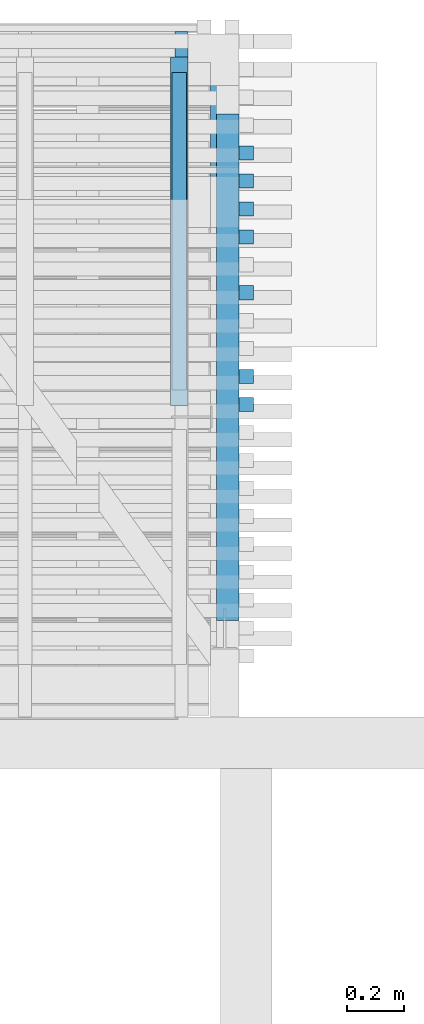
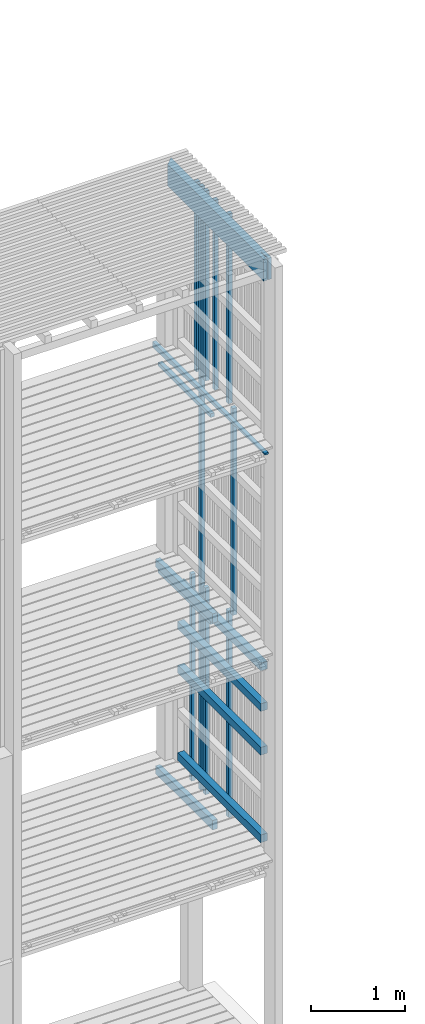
# One storey, part 79 of 182: 21 beams.
"""IFC2X3 building model written with IfcOpenShell, lengths in metres."""

from ifc_helpers import new_model, si_unit, frame, origin, place, context, project, spatial, faceted_brep, element, save


model = new_model("IFC2X3")

# Units and contexts
model_context = context("Model", 3, precision=1e-06, world=origin())
ifc_project = project(units=[si_unit("LENGTHUNIT", "METRE"), si_unit("PLANEANGLEUNIT", "RADIAN")], contexts=[model_context])

# Site, building, storey
site = spatial("IfcSite", under=ifc_project, CompositionType="ELEMENT")
building = spatial("IfcBuilding", under=site, CompositionType="ELEMENT")
storey = spatial("IfcBuildingStorey", under=building, Name="vs", CompositionType="ELEMENT", Elevation=-0.85)

# Beams
placement = place(None, origin())
beam_1_placement = place(placement, frame((26.399999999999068, 12.157804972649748, 7.974999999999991), z_axis=(-1.0, 0.0, 0.0), x_axis=(0.0, 0.0, 1.0)))
element("IfcBeam", 1, at=beam_1_placement, inside=storey, Name="Bardage", context=model_context, shape_type="Brep", body=[
    faceted_brep([(2.479999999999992, -0.024999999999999, 0.024999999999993), (2.479999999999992, -0.024999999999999, -0.025000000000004), (2.479999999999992, 0.025000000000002, -0.025000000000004), (2.479999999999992, 0.025000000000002, 0.024999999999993), (0.0, 0.024999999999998, 0.024999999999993), (0.0, -0.024999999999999, 0.024999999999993), (2.479999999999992, -0.024999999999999, 0.024999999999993), (2.479999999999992, 0.025000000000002, 0.024999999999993), (0.0, -0.024999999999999, 0.024999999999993), (0.0, 0.024999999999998, 0.024999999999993), (0.0, 0.024999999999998, -0.025000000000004), (0.0, -0.024999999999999, -0.025000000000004), (0.0, 0.024999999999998, -0.025000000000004), (0.0, 0.024999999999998, 0.024999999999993), (2.479999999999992, 0.025000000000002, 0.024999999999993), (2.479999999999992, 0.025000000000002, -0.025000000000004), (0.0, -0.024999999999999, -0.025000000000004), (0.0, 0.024999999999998, -0.025000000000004), (2.479999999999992, 0.025000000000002, -0.025000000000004), (2.479999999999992, -0.024999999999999, -0.025000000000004), (2.479999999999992, -0.024999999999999, 0.024999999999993), (0.0, -0.024999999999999, 0.024999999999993), (0.0, -0.024999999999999, -0.025000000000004), (2.479999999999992, -0.024999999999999, -0.025000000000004)], [[[0, 1, 2, 3]], [[4, 5, 6, 7]], [[8, 9, 10, 11]], [[12, 13, 14, 15]], [[16, 17, 18, 19]], [[20, 21, 22, 23]]]),
])
beam_2_placement = place(placement, frame((26.334999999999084, 10.8100776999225, 4.543749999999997), z_axis=(0.0, 0.0, 1.0), x_axis=(0.0, 1.0, 0.0)))
element("IfcBeam", 2, at=beam_2_placement, inside=storey, Name="Support bardage", context=model_context, shape_type="Brep", body=[
    faceted_brep([(1.779999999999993, -0.039999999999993, 0.050000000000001), (1.779999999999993, -0.039999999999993, -0.050000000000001), (1.779999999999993, 0.04000000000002, -0.050000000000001), (1.779999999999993, 0.04000000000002, 0.050000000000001), (-4e-15, -0.039999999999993, -0.050000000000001), (1.779999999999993, -0.039999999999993, -0.050000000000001), (1.779999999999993, -0.039999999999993, 0.050000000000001), (-4e-15, -0.039999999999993, 0.050000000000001), (-4e-15, 0.04000000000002, -0.050000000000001), (1.779999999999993, 0.04000000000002, -0.050000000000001), (1.779999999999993, -0.039999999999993, -0.050000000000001), (-4e-15, -0.039999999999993, -0.050000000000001), (-4e-15, 0.04000000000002, 0.050000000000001), (1.779999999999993, 0.04000000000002, 0.050000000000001), (1.779999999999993, 0.04000000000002, -0.050000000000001), (-4e-15, 0.04000000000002, -0.050000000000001), (-4e-15, -0.039999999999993, 0.050000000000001), (1.779999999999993, -0.039999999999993, 0.050000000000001), (1.779999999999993, 0.04000000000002, 0.050000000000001), (-4e-15, 0.04000000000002, 0.050000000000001), (-4e-15, -0.039999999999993, -0.050000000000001), (-4e-15, -0.039999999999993, 0.050000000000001), (-4e-15, 0.04000000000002, 0.050000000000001), (-4e-15, 0.04000000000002, -0.050000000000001)], [[[0, 1, 2, 3]], [[4, 5, 6, 7]], [[8, 9, 10, 11]], [[12, 13, 14, 15]], [[16, 17, 18, 19]], [[20, 21, 22, 23]]]),
])
beam_3_placement = place(placement, frame((26.16499999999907, 12.735077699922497, 7.91739999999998), z_axis=(0.0, 0.0, 1.0), x_axis=(0.0, -1.0, 0.0)))
element("IfcBeam", 3, at=beam_3_placement, inside=storey, Name="Calage", context=model_context, shape_type="Brep", body=[
    faceted_brep([(0.0, 0.025000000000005, -0.025), (0.0, -0.024999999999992, -0.025), (0.0, -0.024999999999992, 0.024999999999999), (0.0, 0.025000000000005, 0.024999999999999), (1.115000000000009, -0.024999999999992, 0.024999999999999), (1.115000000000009, -0.024999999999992, -0.025), (1.115000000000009, 0.025000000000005, -0.025), (1.115000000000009, 0.025000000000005, 0.024999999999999), (0.0, -0.024999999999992, 0.024999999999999), (0.0, -0.024999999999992, -0.025), (1.115000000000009, -0.024999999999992, -0.025), (1.115000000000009, -0.024999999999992, 0.024999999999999), (1.115000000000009, -0.024999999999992, -0.025), (0.0, -0.024999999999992, -0.025), (0.0, 0.025000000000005, -0.025), (1.115000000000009, 0.025000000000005, -0.025), (1.115000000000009, 0.025000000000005, -0.025), (0.0, 0.025000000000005, -0.025), (0.0, 0.025000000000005, 0.024999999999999), (1.115000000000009, 0.025000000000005, 0.024999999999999), (1.115000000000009, 0.025000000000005, 0.024999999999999), (0.0, 0.025000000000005, 0.024999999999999), (0.0, -0.024999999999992, 0.024999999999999), (1.115000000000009, -0.024999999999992, 0.024999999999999)], [[[0, 1, 2, 3]], [[4, 5, 6, 7]], [[8, 9, 10, 11]], [[12, 13, 14, 15]], [[16, 17, 18, 19]], [[20, 21, 22, 23]]]),
])
beam_4_placement = place(placement, frame((26.399999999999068, 11.961441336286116, 7.974999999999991), z_axis=(-1.0, 0.0, 0.0), x_axis=(0.0, 0.0, 1.0)))
element("IfcBeam", 4, at=beam_4_placement, inside=storey, Name="Bardage", context=model_context, shape_type="Brep", body=[
    faceted_brep([(2.479999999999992, -0.025000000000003, 0.024999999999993), (2.479999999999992, -0.025000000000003, -0.025000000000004), (2.479999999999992, 0.024999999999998, -0.025000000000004), (2.479999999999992, 0.024999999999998, 0.024999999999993), (0.0, 0.024999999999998, 0.024999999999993), (0.0, -0.025000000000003, 0.024999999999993), (2.479999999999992, -0.025000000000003, 0.024999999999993), (2.479999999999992, 0.024999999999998, 0.024999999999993), (0.0, -0.025000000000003, 0.024999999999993), (0.0, 0.024999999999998, 0.024999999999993), (0.0, 0.024999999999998, -0.025000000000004), (0.0, -0.025000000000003, -0.025000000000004), (0.0, 0.024999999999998, -0.025000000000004), (0.0, 0.024999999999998, 0.024999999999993), (2.479999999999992, 0.024999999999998, 0.024999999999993), (2.479999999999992, 0.024999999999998, -0.025000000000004), (0.0, -0.025000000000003, -0.025000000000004), (0.0, 0.024999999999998, -0.025000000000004), (2.479999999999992, 0.024999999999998, -0.025000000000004), (2.479999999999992, -0.025000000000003, -0.025000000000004), (2.479999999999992, -0.025000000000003, 0.024999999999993), (0.0, -0.025000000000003, 0.024999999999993), (0.0, -0.025000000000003, -0.025000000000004), (2.479999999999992, -0.025000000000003, -0.025000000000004)], [[[0, 1, 2, 3]], [[4, 5, 6, 7]], [[8, 9, 10, 11]], [[12, 13, 14, 15]], [[16, 17, 18, 19]], [[20, 21, 22, 23]]]),
])
beam_5_placement = place(placement, frame((26.399999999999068, 12.255986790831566, 7.974999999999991), z_axis=(-1.0, 0.0, 0.0), x_axis=(0.0, 0.0, 1.0)))
element("IfcBeam", 5, at=beam_5_placement, inside=storey, Name="Bardage", context=model_context, shape_type="Brep", body=[
    faceted_brep([(2.479999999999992, -0.025000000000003, 0.024999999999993), (2.479999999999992, -0.025000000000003, -0.025000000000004), (2.479999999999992, 0.025000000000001, -0.025000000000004), (2.479999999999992, 0.025000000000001, 0.024999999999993), (0.0, 0.025000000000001, 0.024999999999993), (0.0, -0.025000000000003, 0.024999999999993), (2.479999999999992, -0.025000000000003, 0.024999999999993), (2.479999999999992, 0.025000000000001, 0.024999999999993), (0.0, -0.025000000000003, 0.024999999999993), (0.0, 0.025000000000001, 0.024999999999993), (0.0, 0.025000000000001, -0.025000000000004), (0.0, -0.025000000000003, -0.025000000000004), (0.0, 0.025000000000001, -0.025000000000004), (0.0, 0.025000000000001, 0.024999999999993), (2.479999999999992, 0.025000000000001, 0.024999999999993), (2.479999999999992, 0.025000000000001, -0.025000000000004), (0.0, -0.025000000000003, -0.025000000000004), (0.0, 0.025000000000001, -0.025000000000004), (2.479999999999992, 0.025000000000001, -0.025000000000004), (2.479999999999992, -0.025000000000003, -0.025000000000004), (2.479999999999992, -0.025000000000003, 0.024999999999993), (0.0, -0.025000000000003, 0.024999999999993), (0.0, -0.025000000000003, -0.025000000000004), (2.479999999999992, -0.025000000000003, -0.025000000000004)], [[[0, 1, 2, 3]], [[4, 5, 6, 7]], [[8, 9, 10, 11]], [[12, 13, 14, 15]], [[16, 17, 18, 19]], [[20, 21, 22, 23]]]),
])
beam_6_placement = place(placement, frame((26.334999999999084, 10.8100776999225, 5.074999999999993), z_axis=(0.0, 0.0, 1.0), x_axis=(0.0, 1.0, 0.0)))
element("IfcBeam", 6, at=beam_6_placement, inside=storey, Name="Support bardage", context=model_context, shape_type="Brep", body=[
    faceted_brep([(1.779999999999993, -0.039999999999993, 0.050000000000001), (1.779999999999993, -0.039999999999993, -0.050000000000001), (1.779999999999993, 0.04000000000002, -0.050000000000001), (1.779999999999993, 0.04000000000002, 0.050000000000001), (-4e-15, -0.039999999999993, -0.050000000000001), (1.779999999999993, -0.039999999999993, -0.050000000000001), (1.779999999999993, -0.039999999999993, 0.050000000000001), (-4e-15, -0.039999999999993, 0.050000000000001), (-4e-15, 0.04000000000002, -0.050000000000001), (1.779999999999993, 0.04000000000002, -0.050000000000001), (1.779999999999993, -0.039999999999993, -0.050000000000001), (-4e-15, -0.039999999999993, -0.050000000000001), (-4e-15, 0.04000000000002, 0.050000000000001), (1.779999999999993, 0.04000000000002, 0.050000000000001), (1.779999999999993, 0.04000000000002, -0.050000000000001), (-4e-15, 0.04000000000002, -0.050000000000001), (-4e-15, -0.039999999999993, 0.050000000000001), (1.779999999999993, -0.039999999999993, 0.050000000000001), (1.779999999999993, 0.04000000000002, 0.050000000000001), (-4e-15, 0.04000000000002, 0.050000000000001), (-4e-15, -0.039999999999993, -0.050000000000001), (-4e-15, -0.039999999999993, 0.050000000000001), (-4e-15, 0.04000000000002, 0.050000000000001), (-4e-15, 0.04000000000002, -0.050000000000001)], [[[0, 1, 2, 3]], [[4, 5, 6, 7]], [[8, 9, 10, 11]], [[12, 13, 14, 15]], [[16, 17, 18, 19]], [[20, 21, 22, 23]]]),
])
beam_7_placement = place(placement, frame((26.16499999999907, 11.565077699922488, 5.304249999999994), z_axis=(0.0, 0.0, 1.0), x_axis=(0.0, 1.0, 0.0)))
element("IfcBeam", 7, at=beam_7_placement, inside=storey, Name="Solive", context=model_context, shape_type="Brep", body=[
    faceted_brep([(0.0, -0.03, 0.061850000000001), (0.0, -0.03, -0.061849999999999), (1.225000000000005, -0.03, -0.061849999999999), (1.225000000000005, -0.03, 0.03735), (0.0, -0.03, -0.061849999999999), (0.0, -0.03, 0.061850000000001), (0.0, 0.029999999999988, 0.06185), (0.0, 0.029999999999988, -0.061849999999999), (1.225000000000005, -0.03, -0.061849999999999), (0.0, -0.03, -0.061849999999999), (0.0, 0.029999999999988, -0.061849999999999), (1.225000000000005, 0.029999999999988, -0.061849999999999), (1.225000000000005, 0.029999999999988, 0.03735), (1.225000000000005, 0.029999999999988, -0.061849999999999), (0.0, 0.029999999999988, -0.061849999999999), (0.0, 0.029999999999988, 0.06185), (1.225000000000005, -0.03, 0.03735), (1.225000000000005, -0.03, -0.061849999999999), (1.225000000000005, 0.029999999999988, -0.061849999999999), (1.225000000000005, 0.029999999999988, 0.03735), (1.225000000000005, -0.03, 0.03735), (1.225000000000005, 0.029999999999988, 0.03735), (0.0, 0.029999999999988, 0.06185), (0.0, -0.03, 0.061850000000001)], [[[0, 1, 2, 3]], [[4, 5, 6, 7]], [[8, 9, 10, 11]], [[12, 13, 14, 15]], [[16, 17, 18, 19]], [[20, 21, 22, 23]]]),
])
beam_8_placement = place(placement, frame((26.334999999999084, 10.8100776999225, 3.972499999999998), z_axis=(0.0, 0.0, 1.0), x_axis=(0.0, 1.0, 0.0)))
element("IfcBeam", 8, at=beam_8_placement, inside=storey, Name="Support bardage", context=model_context, shape_type="Brep", body=[
    faceted_brep([(1.779999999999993, -0.039999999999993, 0.050000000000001), (1.779999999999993, -0.039999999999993, -0.050000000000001), (1.779999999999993, 0.04000000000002, -0.050000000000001), (1.779999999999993, 0.04000000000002, 0.050000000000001), (-4e-15, -0.039999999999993, -0.050000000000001), (1.779999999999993, -0.039999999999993, -0.050000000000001), (1.779999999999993, -0.039999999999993, 0.050000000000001), (-4e-15, -0.039999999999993, 0.050000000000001), (-4e-15, 0.04000000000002, -0.050000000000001), (1.779999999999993, 0.04000000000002, -0.050000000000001), (1.779999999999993, -0.039999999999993, -0.050000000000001), (-4e-15, -0.039999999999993, -0.050000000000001), (-4e-15, 0.04000000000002, 0.050000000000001), (1.779999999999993, 0.04000000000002, 0.050000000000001), (1.779999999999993, 0.04000000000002, -0.050000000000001), (-4e-15, 0.04000000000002, -0.050000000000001), (-4e-15, -0.039999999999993, 0.050000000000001), (1.779999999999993, -0.039999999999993, 0.050000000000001), (1.779999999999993, 0.04000000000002, 0.050000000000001), (-4e-15, 0.04000000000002, 0.050000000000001), (-4e-15, -0.039999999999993, -0.050000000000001), (-4e-15, -0.039999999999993, 0.050000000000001), (-4e-15, 0.04000000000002, 0.050000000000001), (-4e-15, 0.04000000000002, -0.050000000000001)], [[[0, 1, 2, 3]], [[4, 5, 6, 7]], [[8, 9, 10, 11]], [[12, 13, 14, 15]], [[16, 17, 18, 19]], [[20, 21, 22, 23]]]),
])
for number, where, z_axis, x_axis in (
    (9, (26.399999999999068, 12.157804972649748, 2.575000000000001), (-1.0, 0.0, 0.0), (0.0, 0.0, 1.0)),
    (10, (26.399999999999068, 12.452350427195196, 2.575000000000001), (-1.0, 0.0, 0.0), (0.0, 0.0, 1.0)),
):
    element("IfcBeam", number, at=place(placement, frame(where, z_axis=z_axis, x_axis=x_axis)), inside=storey, Name="Bardage", context=model_context, shape_type="Brep", body=[
        faceted_brep([(0.0, -0.024999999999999, 0.024999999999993), (0.0, 0.025000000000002, 0.024999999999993), (0.0, 0.025000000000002, -0.025000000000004), (0.0, -0.024999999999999, -0.025000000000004), (2.699961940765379, 0.025000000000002, -0.025000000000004), (2.699961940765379, 0.025000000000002, 0.024999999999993), (2.699961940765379, -0.024999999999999, 0.024999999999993), (2.699961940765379, -0.024999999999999, -0.025000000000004), (0.0, -0.024999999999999, -0.025000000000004), (0.0, 0.025000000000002, -0.025000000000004), (2.699961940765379, 0.025000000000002, -0.025000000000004), (2.699961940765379, -0.024999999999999, -0.025000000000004), (2.699961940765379, 0.025000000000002, -0.025000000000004), (0.0, 0.025000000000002, -0.025000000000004), (0.0, 0.025000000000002, 0.024999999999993), (2.699961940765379, 0.025000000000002, 0.024999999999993), (2.699961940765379, 0.025000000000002, 0.024999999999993), (0.0, 0.025000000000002, 0.024999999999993), (0.0, -0.024999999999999, 0.024999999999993), (2.699961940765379, -0.024999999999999, 0.024999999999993), (2.699961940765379, -0.024999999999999, 0.024999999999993), (0.0, -0.024999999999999, 0.024999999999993), (0.0, -0.024999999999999, -0.025000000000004), (2.699961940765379, -0.024999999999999, -0.025000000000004)], [[[0, 1, 2, 3]], [[4, 5, 6, 7]], [[8, 9, 10, 11]], [[12, 13, 14, 15]], [[16, 17, 18, 19]], [[20, 21, 22, 23]]]),
    ])
beam_9_placement = place(placement, frame((26.32499999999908, 10.715077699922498, 10.314999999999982), z_axis=(0.0, 0.0, 1.0), x_axis=(0.0, 1.0, 0.0)))
element("IfcBeam", 11, at=beam_9_placement, inside=storey, Name="Sommier", context=model_context, shape_type="Brep", body=[
    faceted_brep([(2.054999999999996, 0.049999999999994, 0.140000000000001), (2.054999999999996, 0.049999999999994, -0.140000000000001), (0.0, 0.049999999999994, -0.140000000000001), (0.0, 0.049999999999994, 0.140000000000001), (2.054999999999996, 0.049999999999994, -0.140000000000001), (2.054999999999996, 0.049999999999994, 0.140000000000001), (2.154999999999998, -0.05, 0.140000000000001), (2.154999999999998, -0.05, -0.140000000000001), (-4e-15, -0.003999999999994, 0.140000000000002), (0.0, -0.05, 0.140000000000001), (2.154999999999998, -0.05, 0.140000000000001), (2.054999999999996, 0.049999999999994, 0.140000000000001), (0.0, 0.049999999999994, 0.140000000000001), (-4e-15, 0.004000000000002, 0.140000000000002), (0.136999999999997, 0.004000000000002, 0.140000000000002), (0.136999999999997, -0.003999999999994, 0.140000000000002), (2.154999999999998, -0.05, -0.140000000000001), (2.154999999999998, -0.05, 0.140000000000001), (0.0, -0.05, 0.140000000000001), (0.0, -0.05, -0.140000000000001), (0.0, 0.004000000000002, -0.139999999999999), (-4e-15, 0.004000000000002, 0.140000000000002), (0.0, 0.049999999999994, 0.140000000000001), (0.0, 0.049999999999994, -0.140000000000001), (0.0, -0.05, 0.140000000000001), (-4e-15, -0.003999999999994, 0.140000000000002), (0.0, -0.003999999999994, -0.139999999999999), (0.0, -0.05, -0.140000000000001), (0.0, 0.049999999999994, -0.140000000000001), (2.054999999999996, 0.049999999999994, -0.140000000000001), (2.154999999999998, -0.05, -0.140000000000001), (0.0, -0.05, -0.140000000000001), (0.0, -0.003999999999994, -0.139999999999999), (0.136999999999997, -0.003999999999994, -0.139999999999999), (0.136999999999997, 0.004000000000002, -0.139999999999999), (0.0, 0.004000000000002, -0.139999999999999), (0.136999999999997, 0.004000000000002, -0.139999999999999), (0.136999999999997, -0.003999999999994, -0.139999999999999), (0.136999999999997, -0.003999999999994, 0.140000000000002), (0.136999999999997, 0.004000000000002, 0.140000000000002), (-4e-15, -0.003999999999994, 0.140000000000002), (0.136999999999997, -0.003999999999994, 0.140000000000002), (0.136999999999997, -0.003999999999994, -0.139999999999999), (0.0, -0.003999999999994, -0.139999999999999), (0.136999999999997, 0.004000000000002, 0.140000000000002), (-4e-15, 0.004000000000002, 0.140000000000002), (0.0, 0.004000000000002, -0.139999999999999), (0.136999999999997, 0.004000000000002, -0.139999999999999)], [[[0, 1, 2, 3]], [[4, 5, 6, 7]], [[8, 9, 10, 11, 12, 13, 14, 15]], [[16, 17, 18, 19]], [[20, 21, 22, 23]], [[24, 25, 26, 27]], [[28, 29, 30, 31, 32, 33, 34, 35]], [[36, 37, 38, 39]], [[40, 41, 42, 43]], [[44, 45, 46, 47]]]),
])
beam_10_placement = place(placement, frame((26.172499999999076, 10.470077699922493, 8.084400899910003), z_axis=(0.0, 0.0, 1.0), x_axis=(0.0, 1.0, 0.0)))
element("IfcBeam", 12, at=beam_10_placement, inside=storey, Name="Calage", context=model_context, shape_type="Brep", body=[
    faceted_brep([(2.410000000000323, -0.022499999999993, -0.035599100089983), (0.0, -0.022499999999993, 0.012600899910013), (0.0, 0.022500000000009, 0.012600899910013), (2.410000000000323, 0.022500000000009, -0.035599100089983), (0.0, 0.022500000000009, 0.035599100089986), (0.0, 0.022500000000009, 0.012600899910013), (0.0, -0.022499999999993, 0.012600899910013), (0.0, -0.022499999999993, 0.035599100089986), (2.410000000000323, 0.022500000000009, -0.035599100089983), (0.0, 0.022500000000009, 0.012600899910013), (0.0, 0.022500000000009, 0.035599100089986), (2.410000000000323, 0.022500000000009, 0.035599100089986), (2.410000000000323, -0.022499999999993, 0.035599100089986), (0.0, -0.022499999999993, 0.035599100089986), (0.0, -0.022499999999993, 0.012600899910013), (2.410000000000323, -0.022499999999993, -0.035599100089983), (2.410000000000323, 0.022500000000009, 0.035599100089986), (0.0, 0.022500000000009, 0.035599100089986), (0.0, -0.022499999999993, 0.035599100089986), (2.410000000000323, -0.022499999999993, 0.035599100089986), (2.410000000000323, 0.022500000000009, -0.035599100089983), (2.410000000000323, 0.022500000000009, 0.035599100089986), (2.410000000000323, -0.022499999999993, 0.035599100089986), (2.410000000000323, -0.022499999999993, -0.035599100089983)], [[[0, 1, 2, 3]], [[4, 5, 6, 7]], [[8, 9, 10, 11]], [[12, 13, 14, 15]], [[16, 17, 18, 19]], [[20, 21, 22, 23]]]),
])
beam_11_placement = place(placement, frame((26.16499999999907, 12.735077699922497, 5.217399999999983), z_axis=(0.0, 0.0, 1.0), x_axis=(0.0, -1.0, 0.0)))
element("IfcBeam", 13, at=beam_11_placement, inside=storey, Name="Calage", context=model_context, shape_type="Brep", body=[
    faceted_brep([(0.0, 0.025000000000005, -0.025), (0.0, -0.024999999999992, -0.025), (0.0, -0.024999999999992, 0.024999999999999), (0.0, 0.025000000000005, 0.024999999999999), (1.115000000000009, -0.024999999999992, 0.024999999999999), (1.115000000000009, -0.024999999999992, -0.025), (1.115000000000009, 0.025000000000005, -0.025), (1.115000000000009, 0.025000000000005, 0.024999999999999), (0.0, -0.024999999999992, 0.024999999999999), (0.0, -0.024999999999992, -0.025), (1.115000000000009, -0.024999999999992, -0.025), (1.115000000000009, -0.024999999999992, 0.024999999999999), (1.115000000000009, -0.024999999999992, -0.025), (0.0, -0.024999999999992, -0.025), (0.0, 0.025000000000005, -0.025), (1.115000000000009, 0.025000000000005, -0.025), (1.115000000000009, 0.025000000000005, -0.025), (0.0, 0.025000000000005, -0.025), (0.0, 0.025000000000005, 0.024999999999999), (1.115000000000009, 0.025000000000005, 0.024999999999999), (1.115000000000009, 0.025000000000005, 0.024999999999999), (0.0, 0.025000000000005, 0.024999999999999), (0.0, -0.024999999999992, 0.024999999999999), (1.115000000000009, -0.024999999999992, 0.024999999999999)], [[[0, 1, 2, 3]], [[4, 5, 6, 7]], [[8, 9, 10, 11]], [[12, 13, 14, 15]], [[16, 17, 18, 19]], [[20, 21, 22, 23]]]),
])
beam_12_placement = place(placement, frame((26.399999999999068, 12.354168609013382, 7.974999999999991), z_axis=(-1.0, 0.0, 0.0), x_axis=(0.0, 0.0, 1.0)))
element("IfcBeam", 14, at=beam_12_placement, inside=storey, Name="Bardage", context=model_context, shape_type="Brep", body=[
    faceted_brep([(2.479999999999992, -0.024999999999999, 0.024999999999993), (2.479999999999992, -0.024999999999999, -0.025000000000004), (2.479999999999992, 0.024999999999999, -0.025000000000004), (2.479999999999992, 0.024999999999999, 0.024999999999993), (0.0, 0.024999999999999, 0.024999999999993), (0.0, -0.024999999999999, 0.024999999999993), (2.479999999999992, -0.024999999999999, 0.024999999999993), (2.479999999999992, 0.024999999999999, 0.024999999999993), (0.0, -0.024999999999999, 0.024999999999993), (0.0, 0.024999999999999, 0.024999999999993), (0.0, 0.024999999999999, -0.025000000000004), (0.0, -0.024999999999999, -0.025000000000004), (0.0, 0.024999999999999, -0.025000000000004), (0.0, 0.024999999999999, 0.024999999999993), (2.479999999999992, 0.024999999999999, 0.024999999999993), (2.479999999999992, 0.024999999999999, -0.025000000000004), (0.0, -0.024999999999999, -0.025000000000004), (0.0, 0.024999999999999, -0.025000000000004), (2.479999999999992, 0.024999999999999, -0.025000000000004), (2.479999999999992, -0.024999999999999, -0.025000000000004), (2.479999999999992, -0.024999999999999, 0.024999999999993), (0.0, -0.024999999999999, 0.024999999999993), (0.0, -0.024999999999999, -0.025000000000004), (2.479999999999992, -0.024999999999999, -0.025000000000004)], [[[0, 1, 2, 3]], [[4, 5, 6, 7]], [[8, 9, 10, 11]], [[12, 13, 14, 15]], [[16, 17, 18, 19]], [[20, 21, 22, 23]]]),
])
beam_13_placement = place(placement, frame((26.399999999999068, 11.666895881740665, 7.974999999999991), z_axis=(-1.0, 0.0, 0.0), x_axis=(0.0, 0.0, 1.0)))
element("IfcBeam", 15, at=beam_13_placement, inside=storey, Name="Bardage", context=model_context, shape_type="Brep", body=[
    faceted_brep([(2.479999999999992, -0.025000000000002, 0.024999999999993), (2.479999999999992, -0.025000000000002, -0.025000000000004), (2.479999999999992, 0.024999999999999, -0.025000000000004), (2.479999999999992, 0.024999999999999, 0.024999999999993), (0.0, 0.024999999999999, 0.024999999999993), (0.0, -0.025000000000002, 0.024999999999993), (2.479999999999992, -0.025000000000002, 0.024999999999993), (2.479999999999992, 0.024999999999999, 0.024999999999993), (0.0, -0.025000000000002, 0.024999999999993), (0.0, 0.024999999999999, 0.024999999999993), (0.0, 0.024999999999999, -0.025000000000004), (0.0, -0.025000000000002, -0.025000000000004), (0.0, 0.024999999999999, -0.025000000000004), (0.0, 0.024999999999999, 0.024999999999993), (2.479999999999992, 0.024999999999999, 0.024999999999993), (2.479999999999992, 0.024999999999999, -0.025000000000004), (0.0, -0.025000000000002, -0.025000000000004), (0.0, 0.024999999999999, -0.025000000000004), (2.479999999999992, 0.024999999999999, -0.025000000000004), (2.479999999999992, -0.025000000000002, -0.025000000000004), (2.479999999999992, -0.025000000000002, 0.024999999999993), (0.0, -0.025000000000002, 0.024999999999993), (0.0, -0.025000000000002, -0.025000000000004), (2.479999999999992, -0.025000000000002, -0.025000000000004)], [[[0, 1, 2, 3]], [[4, 5, 6, 7]], [[8, 9, 10, 11]], [[12, 13, 14, 15]], [[16, 17, 18, 19]], [[20, 21, 22, 23]]]),
])
beam_14_placement = place(placement, frame((26.399999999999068, 12.255986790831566, 2.575000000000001), z_axis=(-1.0, 0.0, 0.0), x_axis=(0.0, 0.0, 1.0)))
element("IfcBeam", 16, at=beam_14_placement, inside=storey, Name="Bardage", context=model_context, shape_type="Brep", body=[
    faceted_brep([(0.0, -0.025000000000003, 0.024999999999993), (0.0, 0.025000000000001, 0.024999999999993), (0.0, 0.025000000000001, -0.025000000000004), (0.0, -0.025000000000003, -0.025000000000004), (2.699961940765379, 0.025000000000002, -0.025000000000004), (2.699961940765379, 0.025000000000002, 0.024999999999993), (2.699961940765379, -0.024999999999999, 0.024999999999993), (2.699961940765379, -0.024999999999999, -0.025000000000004), (0.0, -0.025000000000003, -0.025000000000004), (0.0, 0.025000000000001, -0.025000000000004), (2.699961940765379, 0.025000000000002, -0.025000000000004), (2.699961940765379, -0.024999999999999, -0.025000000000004), (2.699961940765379, 0.025000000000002, -0.025000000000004), (0.0, 0.025000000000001, -0.025000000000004), (0.0, 0.025000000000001, 0.024999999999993), (2.699961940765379, 0.025000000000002, 0.024999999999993), (2.699961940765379, 0.025000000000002, 0.024999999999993), (0.0, 0.025000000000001, 0.024999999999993), (0.0, -0.025000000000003, 0.024999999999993), (2.699961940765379, -0.024999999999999, 0.024999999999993), (2.699961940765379, -0.024999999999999, 0.024999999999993), (0.0, -0.025000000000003, 0.024999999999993), (0.0, -0.025000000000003, -0.025000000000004), (2.699961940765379, -0.024999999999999, -0.025000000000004)], [[[0, 1, 2, 3]], [[4, 5, 6, 7]], [[8, 9, 10, 11]], [[12, 13, 14, 15]], [[16, 17, 18, 19]], [[20, 21, 22, 23]]]),
])
beam_15_placement = place(placement, frame((26.399999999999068, 11.666895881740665, 2.575000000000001), z_axis=(-1.0, 0.0, 0.0), x_axis=(0.0, 0.0, 1.0)))
element("IfcBeam", 17, at=beam_15_placement, inside=storey, Name="Bardage", context=model_context, shape_type="Brep", body=[
    faceted_brep([(0.0, -0.025000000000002, 0.024999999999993), (0.0, 0.024999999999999, 0.024999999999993), (0.0, 0.024999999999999, -0.025000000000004), (0.0, -0.025000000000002, -0.025000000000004), (2.699961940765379, 0.024999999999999, -0.025000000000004), (2.699961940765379, 0.024999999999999, 0.024999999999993), (2.699961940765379, -0.025000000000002, 0.024999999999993), (2.699961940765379, -0.025000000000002, -0.025000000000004), (0.0, -0.025000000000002, -0.025000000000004), (0.0, 0.024999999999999, -0.025000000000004), (2.699961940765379, 0.024999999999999, -0.025000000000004), (2.699961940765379, -0.025000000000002, -0.025000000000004), (2.699961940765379, 0.024999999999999, -0.025000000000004), (0.0, 0.024999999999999, -0.025000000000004), (0.0, 0.024999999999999, 0.024999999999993), (2.699961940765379, 0.024999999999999, 0.024999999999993), (2.699961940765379, 0.024999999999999, 0.024999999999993), (0.0, 0.024999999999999, 0.024999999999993), (0.0, -0.025000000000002, 0.024999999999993), (2.699961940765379, -0.025000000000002, 0.024999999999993), (2.699961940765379, -0.025000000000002, 0.024999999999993), (0.0, -0.025000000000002, 0.024999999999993), (0.0, -0.025000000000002, -0.025000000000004), (2.699961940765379, -0.025000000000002, -0.025000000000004)], [[[0, 1, 2, 3]], [[4, 5, 6, 7]], [[8, 9, 10, 11]], [[12, 13, 14, 15]], [[16, 17, 18, 19]], [[20, 21, 22, 23]]]),
])
beam_16_placement = place(placement, frame((26.334999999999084, 10.8100776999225, 2.830000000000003), z_axis=(0.0, 0.0, 1.0), x_axis=(0.0, 1.0, 0.0)))
element("IfcBeam", 18, at=beam_16_placement, inside=storey, Name="Support bardage", context=model_context, shape_type="Brep", body=[
    faceted_brep([(1.779999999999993, -0.039999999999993, 0.05), (1.779999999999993, -0.039999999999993, -0.050000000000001), (1.779999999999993, 0.04000000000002, -0.050000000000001), (1.779999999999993, 0.04000000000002, 0.05), (-4e-15, -0.039999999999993, -0.050000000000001), (1.779999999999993, -0.039999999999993, -0.050000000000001), (1.779999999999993, -0.039999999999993, 0.05), (-4e-15, -0.039999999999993, 0.05), (-4e-15, 0.04000000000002, -0.050000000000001), (1.779999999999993, 0.04000000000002, -0.050000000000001), (1.779999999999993, -0.039999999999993, -0.050000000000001), (-4e-15, -0.039999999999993, -0.050000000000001), (-4e-15, 0.04000000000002, 0.05), (1.779999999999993, 0.04000000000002, 0.05), (1.779999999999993, 0.04000000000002, -0.050000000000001), (-4e-15, 0.04000000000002, -0.050000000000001), (-4e-15, -0.039999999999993, 0.05), (1.779999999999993, -0.039999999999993, 0.05), (1.779999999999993, 0.04000000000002, 0.05), (-4e-15, 0.04000000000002, 0.05), (-4e-15, -0.039999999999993, -0.050000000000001), (-4e-15, -0.039999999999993, 0.05), (-4e-15, 0.04000000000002, 0.05), (-4e-15, 0.04000000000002, -0.050000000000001)], [[[0, 1, 2, 3]], [[4, 5, 6, 7]], [[8, 9, 10, 11]], [[12, 13, 14, 15]], [[16, 17, 18, 19]], [[20, 21, 22, 23]]]),
])
beam_17_placement = place(placement, frame((26.16499999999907, 11.565077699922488, 2.604249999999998), z_axis=(0.0, 0.0, 1.0), x_axis=(0.0, 1.0, 0.0)))
element("IfcBeam", 19, at=beam_17_placement, inside=storey, Name="Solive", context=model_context, shape_type="Brep", body=[
    faceted_brep([(0.0, -0.03, 0.06185), (0.0, -0.03, -0.06185), (1.225000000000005, -0.03, -0.06185), (1.225000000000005, -0.03, 0.03735), (0.0, -0.03, -0.06185), (0.0, -0.03, 0.06185), (0.0, 0.029999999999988, 0.06185), (0.0, 0.029999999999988, -0.06185), (1.225000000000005, -0.03, -0.06185), (0.0, -0.03, -0.06185), (0.0, 0.029999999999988, -0.06185), (1.225000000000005, 0.029999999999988, -0.06185), (1.225000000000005, 0.029999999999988, 0.03735), (1.225000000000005, 0.029999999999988, -0.06185), (0.0, 0.029999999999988, -0.06185), (0.0, 0.029999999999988, 0.06185), (1.225000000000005, -0.03, 0.03735), (1.225000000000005, -0.03, -0.06185), (1.225000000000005, 0.029999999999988, -0.06185), (1.225000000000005, 0.029999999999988, 0.03735), (1.225000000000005, -0.03, 0.03735), (1.225000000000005, 0.029999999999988, 0.03735), (0.0, 0.029999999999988, 0.06185), (0.0, -0.03, 0.06185)], [[[0, 1, 2, 3]], [[4, 5, 6, 7]], [[8, 9, 10, 11]], [[12, 13, 14, 15]], [[16, 17, 18, 19]], [[20, 21, 22, 23]]]),
])
beam_18_placement = place(placement, frame((26.399999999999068, 11.568714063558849, 5.274999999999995), z_axis=(-1.0, 0.0, 0.0), x_axis=(0.0, 0.0, 1.0)))
element("IfcBeam", 20, at=beam_18_placement, inside=storey, Name="Bardage", context=model_context, shape_type="Brep", body=[
    faceted_brep([(1e-15, -0.024999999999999, 0.024999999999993), (1e-15, 0.024999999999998, 0.024999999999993), (1e-15, 0.024999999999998, -0.025000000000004), (1e-15, -0.024999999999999, -0.025000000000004), (2.699999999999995, -0.024999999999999, -0.025000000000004), (2.699999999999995, 0.024999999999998, -0.025000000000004), (2.699999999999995, 0.024999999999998, 0.024999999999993), (2.699999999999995, -0.024999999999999, 0.024999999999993), (1e-15, -0.024999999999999, 0.024999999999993), (1e-15, -0.024999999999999, -0.025000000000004), (2.699999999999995, -0.024999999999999, -0.025000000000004), (2.699999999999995, -0.024999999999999, 0.024999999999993), (2.699999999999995, -0.024999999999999, -0.025000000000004), (1e-15, -0.024999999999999, -0.025000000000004), (1e-15, 0.024999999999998, -0.025000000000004), (2.699999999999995, 0.024999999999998, -0.025000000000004), (2.699999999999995, 0.024999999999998, -0.025000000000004), (1e-15, 0.024999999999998, -0.025000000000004), (1e-15, 0.024999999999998, 0.024999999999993), (2.699999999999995, 0.024999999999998, 0.024999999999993), (2.699999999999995, 0.024999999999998, 0.024999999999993), (1e-15, 0.024999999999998, 0.024999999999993), (1e-15, -0.024999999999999, 0.024999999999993), (2.699999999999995, -0.024999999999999, 0.024999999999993)], [[[0, 1, 2, 3]], [[4, 5, 6, 7]], [[8, 9, 10, 11]], [[12, 13, 14, 15]], [[16, 17, 18, 19]], [[20, 21, 22, 23]]]),
])
beam_19_placement = place(placement, frame((26.399999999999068, 12.255986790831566, 5.274999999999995), z_axis=(-1.0, 0.0, 0.0), x_axis=(0.0, 0.0, 1.0)))
element("IfcBeam", 21, at=beam_19_placement, inside=storey, Name="Bardage", context=model_context, shape_type="Brep", body=[
    faceted_brep([(1e-15, -0.025000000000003, 0.024999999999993), (1e-15, 0.025000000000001, 0.024999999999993), (1e-15, 0.025000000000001, -0.025000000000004), (1e-15, -0.025000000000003, -0.025000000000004), (2.699999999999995, -0.025000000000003, -0.025000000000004), (2.699999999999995, 0.025000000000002, -0.025000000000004), (2.699999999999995, 0.025000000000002, 0.024999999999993), (2.699999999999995, -0.025000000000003, 0.024999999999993), (1e-15, -0.025000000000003, 0.024999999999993), (1e-15, -0.025000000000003, -0.025000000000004), (2.699999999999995, -0.025000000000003, -0.025000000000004), (2.699999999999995, -0.025000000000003, 0.024999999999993), (2.699999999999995, -0.025000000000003, -0.025000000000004), (1e-15, -0.025000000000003, -0.025000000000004), (1e-15, 0.025000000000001, -0.025000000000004), (2.699999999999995, 0.025000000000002, -0.025000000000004), (2.699999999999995, 0.025000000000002, -0.025000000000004), (1e-15, 0.025000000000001, -0.025000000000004), (1e-15, 0.025000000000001, 0.024999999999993), (2.699999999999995, 0.025000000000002, 0.024999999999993), (2.699999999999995, 0.025000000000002, 0.024999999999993), (1e-15, 0.025000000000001, 0.024999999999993), (1e-15, -0.025000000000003, 0.024999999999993), (2.699999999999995, -0.025000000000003, 0.024999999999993)], [[[0, 1, 2, 3]], [[4, 5, 6, 7]], [[8, 9, 10, 11]], [[12, 13, 14, 15]], [[16, 17, 18, 19]], [[20, 21, 22, 23]]]),
])

save(model, "model.ifc")
